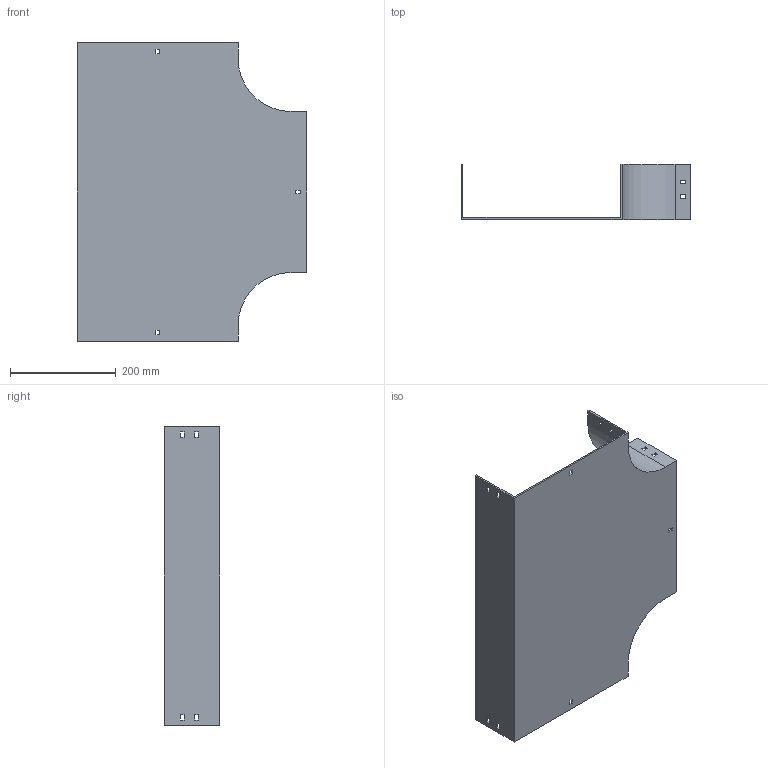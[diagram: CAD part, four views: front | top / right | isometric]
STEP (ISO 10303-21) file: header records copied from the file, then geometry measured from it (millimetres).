
FILE_DESCRIPTION (( 'STEP AP214' ), '1' );
FILE_NAME ('15F1D300.step', '2025-02-21T13:03:45', ( '' ), ( '' ), 'SwSTEP 2.0', 'SolidWorks 2023', '' );
FILE_SCHEMA (( 'AUTOMOTIVE_DESIGN' ));
Length unit declared in the file: millimetre
Products named in the file (1): 15F1D300
Bounding box: 434 x 104 x 564 mm (x, y, z)
Volume: 1102920.2 mm3; surface area: 640789.7 mm2
Topology: 1 solids, 1 shells, 82 faces, 240 edges, 160 vertices
Faces by surface type: plane 78, cylinder 4
Entity records: 2755 total; most frequent: CARTESIAN_POINT 483, ORIENTED_EDGE 480, DIRECTION 414, EDGE_CURVE 240, LINE 232, VECTOR 232, VERTEX_POINT 160, EDGE_LOOP 112
